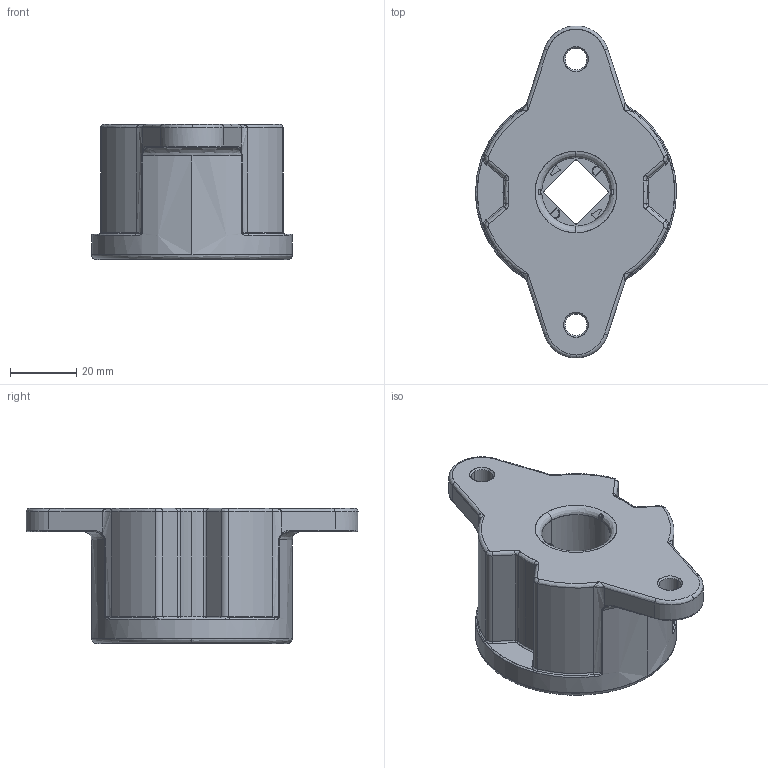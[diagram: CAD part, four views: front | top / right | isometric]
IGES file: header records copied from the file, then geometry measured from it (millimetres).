
Start section: SolidWorks IGES file using analytic representation for surfaces
Global section: file name: T:\共有\電子カタログ\180531 カタログデータ\FYN-Z2-R354_3D_MODEL.IGS; native system: SolidWorks 2018; preprocessor: SolidWorks 2018; author: flgijutsu; date: 180601.210826; units: millimetre
Bounding box: 60.5 x 99.96 x 40.7 mm (x, y, z)
Surface area: 18961.8 mm2 (no closed solid volume)
Topology: 0 solids, 0 shells, 218 faces, 2019 edges, 2017 vertices
Faces by surface type: bspline 127, revolution 91
